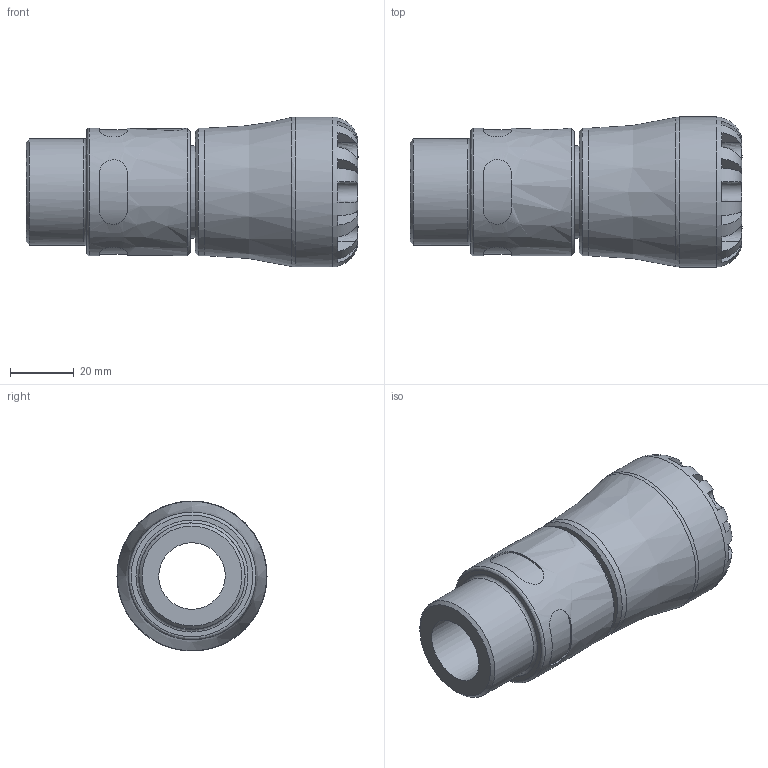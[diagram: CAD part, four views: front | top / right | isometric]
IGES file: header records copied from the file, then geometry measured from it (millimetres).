
Global section: file name: 10N200025010_10N2G0025010; native system: Autodesk Inventor 2019; preprocessor: unknown; author: KIM; date: 20240312.131916; units: millimetre
Bounding box: 104 x 47 x 46.98 mm (x, y, z)
Volume: 89002.6 mm3; surface area: 24633.5 mm2
Topology: 1 solids, 1 shells, 106 faces, 279 edges, 182 vertices
Faces by surface type: bspline 106
